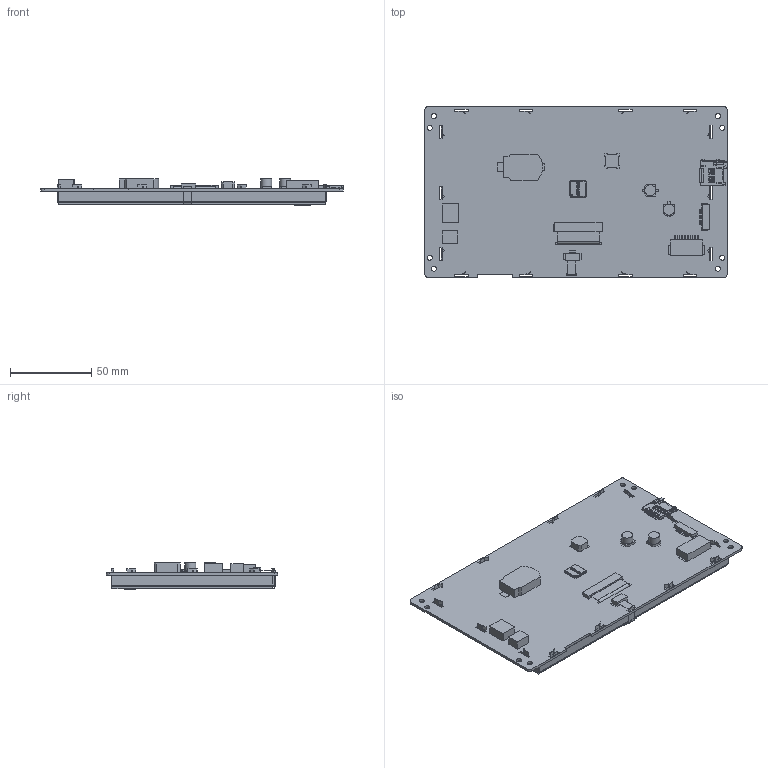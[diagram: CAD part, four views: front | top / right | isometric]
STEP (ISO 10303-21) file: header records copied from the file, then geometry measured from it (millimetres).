
FILE_DESCRIPTION(/* description */ (''),/* implementation_level */ '2;1');
FILE_NAME(/* name */ '',/* time_stamp */ '2021-07-22T10:24:08+08:00',/* author */ (''),/* organization */ (''),/* preprocessor_version */ 'ST-DEVELOPER v11',/* originating_system */ 'SIEMENS PLM Software NX 7.5',/* authorisation */ '');
FILE_SCHEMA (('AP203_CONFIGURATION_CONTROLLED_3D_DESIGN_OF_MECHANICAL_PARTS_AND_ASSEMBLIES_MIM_LF'));
Products named in the file (1): b070T84V01T
Bounding box: 186.3 x 105.4 x 16.11 mm (x, y, z)
Volume: 162293.5 mm3; surface area: 128037.5 mm2
Topology: 23 solids, 23 shells, 2549 faces, 7335 edges, 4847 vertices
Faces by surface type: plane 2098, cylinder 443, bspline 7, cone 1
Full cylindrical faces by diameter (mm): 3.2 x8, 6.776 x2
Entity records: 85464 total; most frequent: CARTESIAN_POINT 15334, ORIENTED_EDGE 14544, DIRECTION 13204, EDGE_CURVE 7272, LINE 6366, VECTOR 6366, VERTEX_POINT 4770, AXIS2_PLACEMENT_3D 3419
